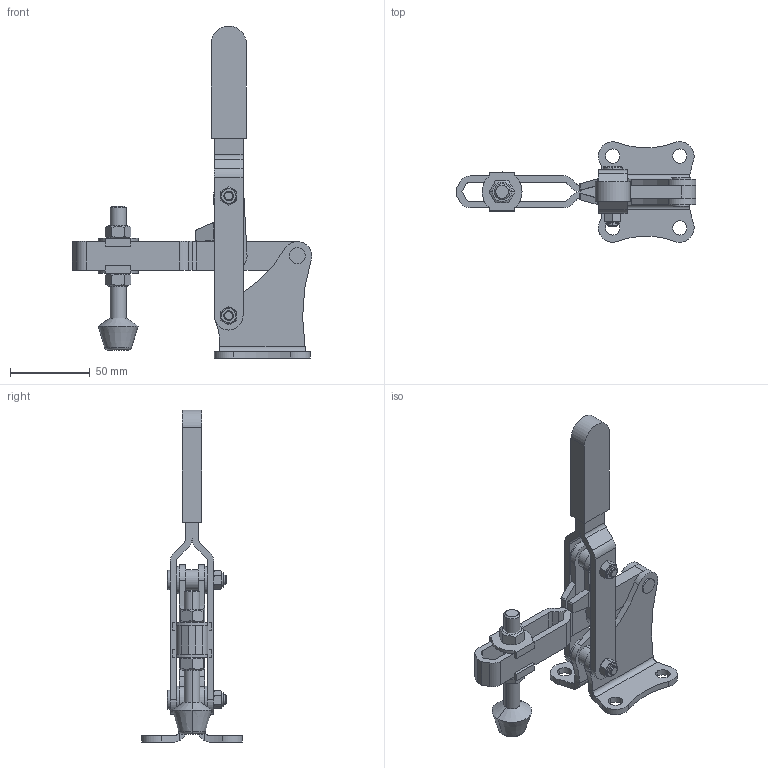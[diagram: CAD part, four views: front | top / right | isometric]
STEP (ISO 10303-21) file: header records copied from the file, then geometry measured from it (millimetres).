
FILE_DESCRIPTION(('CATIA V5 STEP Exchange'),'2;1');
FILE_NAME('D:\Model\toggle\toggle_standard\KJF_036_11F.stp','2005-06-24T05:01:36+00:00',('none'),('none'),'CATIA Version 5 Release 11 (IN-9)','CATIA V5 STEP AP203',' none');
FILE_SCHEMA(('CONFIG_CONTROL_DESIGN'));
Length unit declared in the file: millimetre
Products named in the file (1): Part1
Bounding box: 150 x 63 x 208 mm (x, y, z)
Volume: 118886.3 mm3; surface area: 66007.7 mm2
Topology: 25 solids, 25 shells, 371 faces, 930 edges, 616 vertices
Faces by surface type: cylinder 159, plane 154, cone 56, torus 2
Entity records: 11079 total; most frequent: CARTESIAN_POINT 2623, ORIENTED_EDGE 1860, DIRECTION 1390, EDGE_CURVE 930, AXIS2_PLACEMENT_3D 673, VERTEX_POINT 616, VECTOR 438, LINE 438
